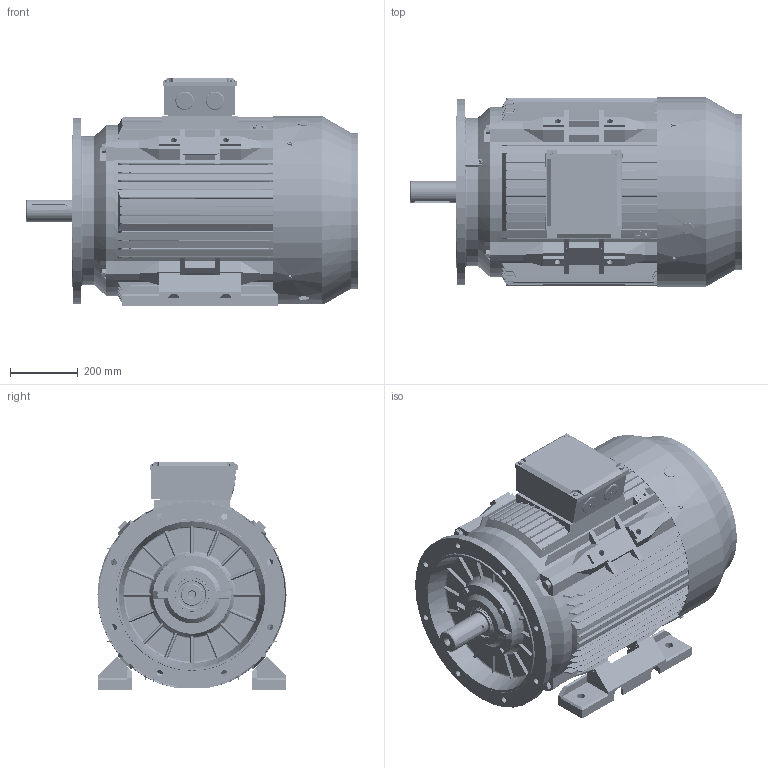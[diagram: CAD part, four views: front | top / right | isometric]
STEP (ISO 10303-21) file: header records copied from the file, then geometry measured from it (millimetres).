
FILE_DESCRIPTION (( 'STEP AP203' ), '1' );
FILE_NAME ('TC 280S-2 B35 外形图.STEP', '2014-12-16T07:04:06', ( '微软用户' ), ( '微软中国' ), 'SwSTEP 2.0', 'SolidWorks 2008', '' );
FILE_SCHEMA (( 'CONFIG_CONTROL_DESIGN' ));
Products named in the file (23): TC280 B3后端盖(170)_默认; 6316_默认; TC 280S-2 转轴_默认; 油封80-100-10_默认; 10_默认; 16_默认; 铜油嘴_默认; TC 250-280S接线盒座_默认; TC 250-280S接线盒盖_默认; TC 280S-2 B35 俋倛芞; TC 280S B5机座_默认; TC 280 B5法兰_默认; TC 280 轴承外盖DE_默认; TC 280 轴承外盖NDE_默认; TC 280S-2 转子_默认; TC280S 底脚_默认; TC 280 风罩_默认; M16-50_默认; M10-80_默认; M8-12_默认; M8-20_默认; 螺塞M50_默认; 扣塞_默认
Assembly tree (43 placements, depth 3):
  TC 280S-2 B35 俋倛芞
    10_默认  x4
    TC 250-280S接线盒盖_默认
    M10-80_默认  x4
    16_默认  x4
    TC 280S-2 转子_默认
      6316_默认  x2
      TC 280S-2 转轴_默认
    M8-20_默认  x4
    螺塞M50_默认  x2
    TC280S 底脚_默认  x2
    M16-50_默认  x4
    M8-12_默认  x4
    TC 280 B5法兰_默认
    TC 280 轴承外盖DE_默认
    油封80-100-10_默认
    TC 280 风罩_默认
    TC280 B3后端盖(170)_默认
    铜油嘴_默认
    扣塞_默认
    TC 250-280S接线盒座_默认
    TC 280 轴承外盖NDE_默认
    TC 280S B5机座_默认
Bounding box: 981.2 x 559 x 671.14 mm (x, y, z)
Volume: 37383059.3 mm3; surface area: 7048409.7 mm2
Topology: 43 solids, 44 shells, 9971 faces, 29217 edges, 19332 vertices
Faces by surface type: plane 5008, cylinder 4237, cone 318, torus 231, bspline 115, sphere 62
Entity records: 333232 total; most frequent: CARTESIAN_POINT 73250, ORIENTED_EDGE 54732, DIRECTION 53102, EDGE_CURVE 27366, VERTEX_POINT 18147, AXIS2_PLACEMENT_3D 18061, LINE 16980, VECTOR 16980
